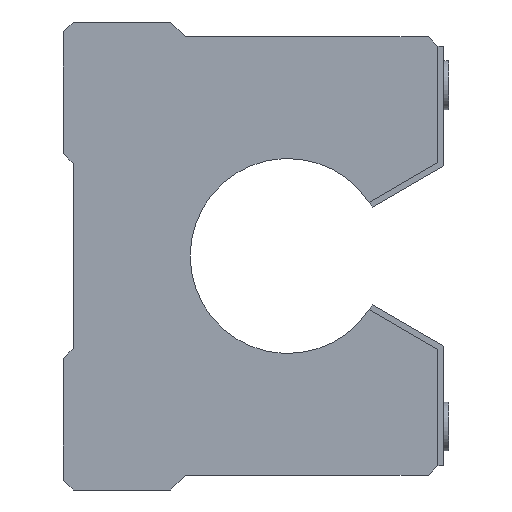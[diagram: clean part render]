
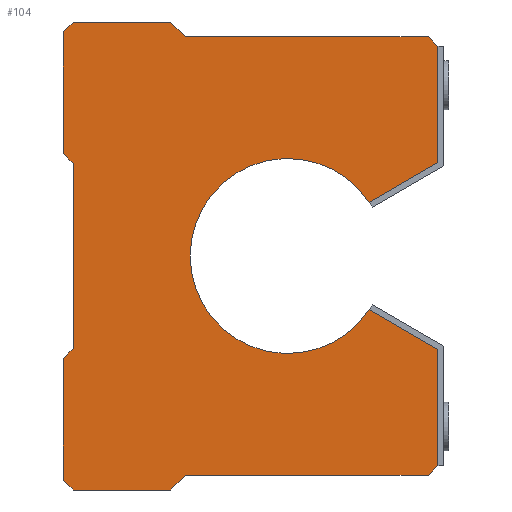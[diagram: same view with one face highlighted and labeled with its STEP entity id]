
A CAD part, left-side view. The second image highlights one B-rep face of the part: STEP entity #104.
In plain terms, the highlighted planar face has unit normal (-1, 0, 0).
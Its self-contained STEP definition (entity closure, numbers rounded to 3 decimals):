
#104 = ADVANCED_FACE( '', ( #264 ), #265, .F. );
#264 = FACE_OUTER_BOUND( '', #536, .T. );
#265 = PLANE( '', #537 );
#536 = EDGE_LOOP( '', ( #989, #990, #991, #992, #993, #994, #995, #996, #997, #998, #999, #1000, #1001, #1002, #1003, #1004, #1005, #1006, #1007, #1008 ) );
#537 = AXIS2_PLACEMENT_3D( '', #1009, #1010, #1011 );
#989 = ORIENTED_EDGE( '', *, *, #1823, .F. );
#990 = ORIENTED_EDGE( '', *, *, #1862, .F. );
#991 = ORIENTED_EDGE( '', *, *, #1857, .F. );
#992 = ORIENTED_EDGE( '', *, *, #1854, .F. );
#993 = ORIENTED_EDGE( '', *, *, #1851, .F. );
#994 = ORIENTED_EDGE( '', *, *, #1848, .F. );
#995 = ORIENTED_EDGE( '', *, *, #1843, .F. );
#996 = ORIENTED_EDGE( '', *, *, #1840, .F. );
#997 = ORIENTED_EDGE( '', *, *, #1837, .F. );
#998 = ORIENTED_EDGE( '', *, *, #1834, .F. );
#999 = ORIENTED_EDGE( '', *, *, #1831, .F. );
#1000 = ORIENTED_EDGE( '', *, *, #1785, .F. );
#1001 = ORIENTED_EDGE( '', *, *, #1782, .F. );
#1002 = ORIENTED_EDGE( '', *, *, #1794, .T. );
#1003 = ORIENTED_EDGE( '', *, *, #1828, .F. );
#1004 = ORIENTED_EDGE( '', *, *, #1830, .F. );
#1005 = ORIENTED_EDGE( '', *, *, #1809, .F. );
#1006 = ORIENTED_EDGE( '', *, *, #1814, .F. );
#1007 = ORIENTED_EDGE( '', *, *, #1817, .F. );
#1008 = ORIENTED_EDGE( '', *, *, #1820, .F. );
#1009 = CARTESIAN_POINT( '', ( -25., 0., 0. ) );
#1010 = DIRECTION( '', ( 1., 0., 0. ) );
#1011 = DIRECTION( '', ( 0., 0., -1. ) );
#1782 = EDGE_CURVE( '', #2135, #2137, #2138, .T. );
#1785 = EDGE_CURVE( '', #2137, #2141, #2142, .T. );
#1794 = EDGE_CURVE( '', #2135, #2156, #2157, .T. );
#1809 = EDGE_CURVE( '', #2181, #2182, #2183, .T. );
#1814 = EDGE_CURVE( '', #2190, #2181, #2191, .T. );
#1817 = EDGE_CURVE( '', #2195, #2190, #2196, .T. );
#1820 = EDGE_CURVE( '', #2200, #2195, #2201, .T. );
#1823 = EDGE_CURVE( '', #2205, #2200, #2206, .T. );
#1828 = EDGE_CURVE( '', #2212, #2156, #2214, .T. );
#1830 = EDGE_CURVE( '', #2182, #2212, #2216, .T. );
#1831 = EDGE_CURVE( '', #2141, #2217, #2218, .T. );
#1834 = EDGE_CURVE( '', #2217, #2222, #2223, .T. );
#1837 = EDGE_CURVE( '', #2222, #2227, #2228, .T. );
#1840 = EDGE_CURVE( '', #2227, #2232, #2233, .T. );
#1843 = EDGE_CURVE( '', #2232, #2237, #2238, .T. );
#1848 = EDGE_CURVE( '', #2237, #2246, #2247, .T. );
#1851 = EDGE_CURVE( '', #2246, #2251, #2252, .T. );
#1854 = EDGE_CURVE( '', #2251, #2256, #2257, .T. );
#1857 = EDGE_CURVE( '', #2256, #2261, #2262, .T. );
#1862 = EDGE_CURVE( '', #2261, #2205, #2270, .T. );
#2135 = VERTEX_POINT( '', #2692 );
#2137 = VERTEX_POINT( '', #2695 );
#2138 = LINE( '', #2696, #2697 );
#2141 = VERTEX_POINT( '', #2702 );
#2142 = LINE( '', #2703, #2704 );
#2156 = VERTEX_POINT( '', #2726 );
#2157 = CIRCLE( '', #2727, 10. );
#2181 = VERTEX_POINT( '', #2760 );
#2182 = VERTEX_POINT( '', #2761 );
#2183 = LINE( '', #2762, #2763 );
#2190 = VERTEX_POINT( '', #2774 );
#2191 = LINE( '', #2775, #2776 );
#2195 = VERTEX_POINT( '', #2782 );
#2196 = LINE( '', #2783, #2784 );
#2200 = VERTEX_POINT( '', #2790 );
#2201 = LINE( '', #2791, #2792 );
#2205 = VERTEX_POINT( '', #2798 );
#2206 = LINE( '', #2799, #2800 );
#2212 = VERTEX_POINT( '', #2809 );
#2214 = LINE( '', #2812, #2813 );
#2216 = LINE( '', #2816, #2817 );
#2217 = VERTEX_POINT( '', #2818 );
#2218 = LINE( '', #2819, #2820 );
#2222 = VERTEX_POINT( '', #2826 );
#2223 = LINE( '', #2827, #2828 );
#2227 = VERTEX_POINT( '', #2834 );
#2228 = LINE( '', #2835, #2836 );
#2232 = VERTEX_POINT( '', #2842 );
#2233 = LINE( '', #2843, #2844 );
#2237 = VERTEX_POINT( '', #2850 );
#2238 = LINE( '', #2851, #2852 );
#2246 = VERTEX_POINT( '', #2862 );
#2247 = LINE( '', #2863, #2864 );
#2251 = VERTEX_POINT( '', #2870 );
#2252 = LINE( '', #2871, #2872 );
#2256 = VERTEX_POINT( '', #2878 );
#2257 = LINE( '', #2879, #2880 );
#2261 = VERTEX_POINT( '', #2886 );
#2262 = LINE( '', #2887, #2888 );
#2270 = LINE( '', #2898, #2899 );
#2692 = CARTESIAN_POINT( '', ( -25., -8.345, -5.511 ) );
#2695 = CARTESIAN_POINT( '', ( -25., -15.4, -9.584 ) );
#2696 = CARTESIAN_POINT( '', ( -25., -8.345, -5.511 ) );
#2697 = VECTOR( '', #3408, 1000. );
#2702 = CARTESIAN_POINT( '', ( -25., -15.4, -21.5 ) );
#2703 = CARTESIAN_POINT( '', ( -25., -15.4, -9.584 ) );
#2704 = VECTOR( '', #3411, 1000. );
#2726 = CARTESIAN_POINT( '', ( -25., -8.345, 5.511 ) );
#2727 = AXIS2_PLACEMENT_3D( '', #3420, #3421, #3422 );
#2760 = CARTESIAN_POINT( '', ( -25., -14.4, 22.5 ) );
#2761 = CARTESIAN_POINT( '', ( -25., -15.4, 21.5 ) );
#2762 = CARTESIAN_POINT( '', ( -25., -14.4, 22.5 ) );
#2763 = VECTOR( '', #3447, 1000. );
#2774 = CARTESIAN_POINT( '', ( -25., 10.5, 22.5 ) );
#2775 = CARTESIAN_POINT( '', ( -25., 10.5, 22.5 ) );
#2776 = VECTOR( '', #3452, 1000. );
#2782 = CARTESIAN_POINT( '', ( -25., 12., 24. ) );
#2783 = CARTESIAN_POINT( '', ( -25., 12., 24. ) );
#2784 = VECTOR( '', #3455, 1000. );
#2790 = CARTESIAN_POINT( '', ( -25., 22., 24. ) );
#2791 = CARTESIAN_POINT( '', ( -25., 22., 24. ) );
#2792 = VECTOR( '', #3458, 1000. );
#2798 = CARTESIAN_POINT( '', ( -25., 23., 23. ) );
#2799 = CARTESIAN_POINT( '', ( -25., 23., 23. ) );
#2800 = VECTOR( '', #3461, 1000. );
#2809 = CARTESIAN_POINT( '', ( -25., -15.4, 9.584 ) );
#2812 = CARTESIAN_POINT( '', ( -25., -15.4, 9.584 ) );
#2813 = VECTOR( '', #3466, 1000. );
#2816 = CARTESIAN_POINT( '', ( -25., -15.4, 21.5 ) );
#2817 = VECTOR( '', #3468, 1000. );
#2818 = CARTESIAN_POINT( '', ( -25., -14.4, -22.5 ) );
#2819 = CARTESIAN_POINT( '', ( -25., -15.4, -21.5 ) );
#2820 = VECTOR( '', #3469, 1000. );
#2826 = CARTESIAN_POINT( '', ( -25., 10.5, -22.5 ) );
#2827 = CARTESIAN_POINT( '', ( -25., -14.4, -22.5 ) );
#2828 = VECTOR( '', #3472, 1000. );
#2834 = CARTESIAN_POINT( '', ( -25., 12., -24. ) );
#2835 = CARTESIAN_POINT( '', ( -25., 10.5, -22.5 ) );
#2836 = VECTOR( '', #3475, 1000. );
#2842 = CARTESIAN_POINT( '', ( -25., 22., -24. ) );
#2843 = CARTESIAN_POINT( '', ( -25., 12., -24. ) );
#2844 = VECTOR( '', #3478, 1000. );
#2850 = CARTESIAN_POINT( '', ( -25., 23., -23. ) );
#2851 = CARTESIAN_POINT( '', ( -25., 22., -24. ) );
#2852 = VECTOR( '', #3481, 1000. );
#2862 = CARTESIAN_POINT( '', ( -25., 23., -10.5 ) );
#2863 = CARTESIAN_POINT( '', ( -25., 23., -23. ) );
#2864 = VECTOR( '', #3490, 1000. );
#2870 = CARTESIAN_POINT( '', ( -25., 22., -9.5 ) );
#2871 = CARTESIAN_POINT( '', ( -25., 23., -10.5 ) );
#2872 = VECTOR( '', #3493, 1000. );
#2878 = CARTESIAN_POINT( '', ( -25., 22., 9.5 ) );
#2879 = CARTESIAN_POINT( '', ( -25., 22., -9.5 ) );
#2880 = VECTOR( '', #3496, 1000. );
#2886 = CARTESIAN_POINT( '', ( -25., 23., 10.5 ) );
#2887 = CARTESIAN_POINT( '', ( -25., 22., 9.5 ) );
#2888 = VECTOR( '', #3499, 1000. );
#2898 = CARTESIAN_POINT( '', ( -25., 23., 10.5 ) );
#2899 = VECTOR( '', #3508, 1000. );
#3408 = DIRECTION( '', ( 0., -0.866, -0.5 ) );
#3411 = DIRECTION( '', ( 0., 0., -1. ) );
#3420 = CARTESIAN_POINT( '', ( -25., 0., 0. ) );
#3421 = DIRECTION( '', ( 1., 0., 0. ) );
#3422 = DIRECTION( '', ( 0., 0., -1. ) );
#3447 = DIRECTION( '', ( 0., -0.707, -0.707 ) );
#3452 = DIRECTION( '', ( 0., -1., 0. ) );
#3455 = DIRECTION( '', ( 0., -0.707, -0.707 ) );
#3458 = DIRECTION( '', ( 0., -1., 0. ) );
#3461 = DIRECTION( '', ( 0., -0.707, 0.707 ) );
#3466 = DIRECTION( '', ( 0., 0.866, -0.5 ) );
#3468 = DIRECTION( '', ( 0., 0., -1. ) );
#3469 = DIRECTION( '', ( 0., 0.707, -0.707 ) );
#3472 = DIRECTION( '', ( 0., 1., 0. ) );
#3475 = DIRECTION( '', ( 0., 0.707, -0.707 ) );
#3478 = DIRECTION( '', ( 0., 1., 0. ) );
#3481 = DIRECTION( '', ( 0., 0.707, 0.707 ) );
#3490 = DIRECTION( '', ( 0., 0., 1. ) );
#3493 = DIRECTION( '', ( 0., -0.707, 0.707 ) );
#3496 = DIRECTION( '', ( 0., 0., 1. ) );
#3499 = DIRECTION( '', ( 0., 0.707, 0.707 ) );
#3508 = DIRECTION( '', ( 0., 0., 1. ) );
